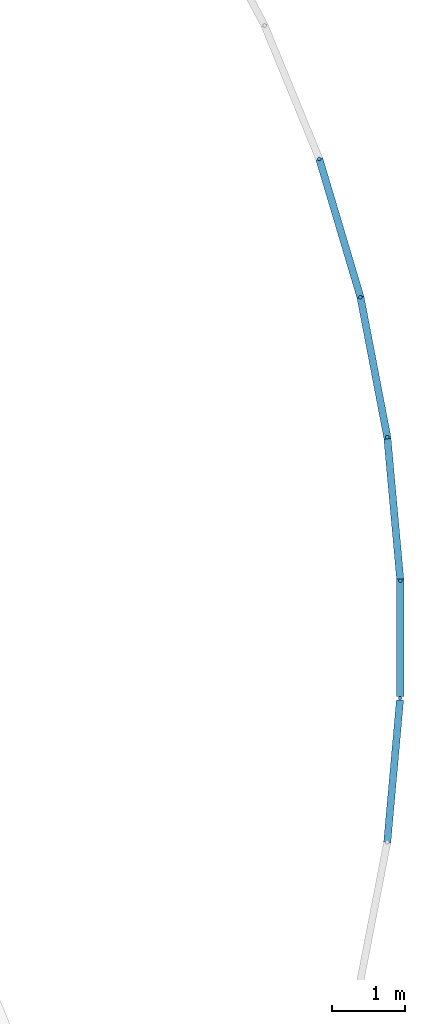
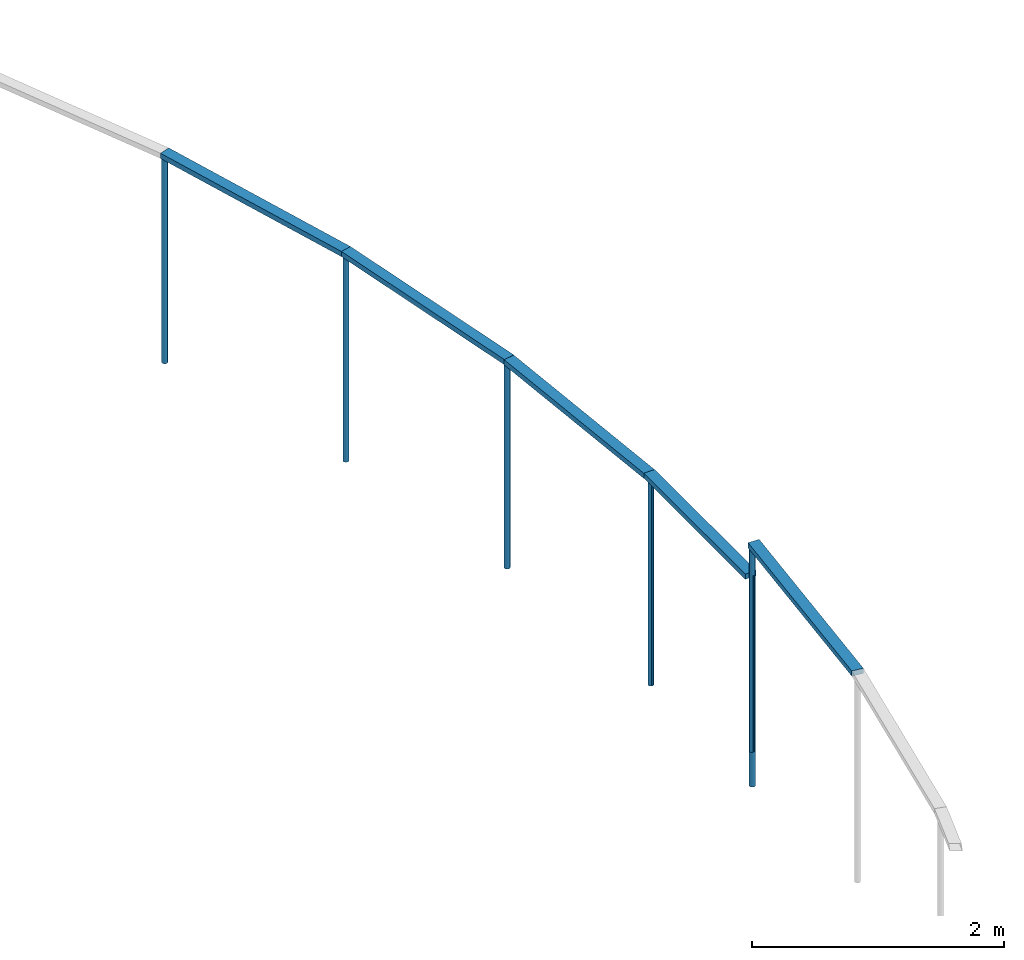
# One storey, part 16 of 33: 12 members, 4 elements without a shape of their own.
"""IFC2X3 building model written with IfcOpenShell, lengths in metres."""

from ifc_helpers import new_model, entity, si_unit, converted_unit, derived_unit, direction, frame, frame_2d, origin, origin_2d_with_axis, place, context, subcontext, project, spatial, rectangle, circle, extrude, clip, halfspace, source, transform, mapped, material, type_object, type_shapes, element, aggregate, save


model = new_model("IFC2X3")

# Units and contexts
model_context = context("Model", 3, precision=1e-05, world=origin(), true_north=direction((6.123031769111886e-17, 1.0)))
body_context = subcontext(model_context, "Body", "Model", "MODEL_VIEW")
ifc_project = project(units=[si_unit("LENGTHUNIT", "METRE"), si_unit("AREAUNIT", "SQUARE_METRE"), si_unit("VOLUMEUNIT", "CUBIC_METRE"), converted_unit("PLANEANGLEUNIT", "DEGREE", entity("IfcRatioMeasure", 0.017453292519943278), si_unit("PLANEANGLEUNIT", "RADIAN"), dimensions=[0, 0, 0, 0, 0, 0, 0]), si_unit("MASSUNIT", "GRAM", prefix="KILO"), derived_unit("MASSDENSITYUNIT", [(si_unit("MASSUNIT", "GRAM", prefix="KILO"), 1), (si_unit("LENGTHUNIT", "METRE"), -3)]), derived_unit("IONCONCENTRATIONUNIT", [(si_unit("MASSUNIT", "GRAM", prefix="KILO"), 1), (si_unit("LENGTHUNIT", "METRE"), -3)]), derived_unit("MOMENTOFINERTIAUNIT", [(si_unit("LENGTHUNIT", "METRE"), 4)]), si_unit("TIMEUNIT", "SECOND"), si_unit("FREQUENCYUNIT", "HERTZ"), si_unit("THERMODYNAMICTEMPERATUREUNIT", "DEGREE_CELSIUS"), derived_unit("THERMALTRANSMITTANCEUNIT", [(si_unit("MASSUNIT", "GRAM", prefix="KILO"), 1), (si_unit("THERMODYNAMICTEMPERATUREUNIT", "KELVIN"), -1), (si_unit("TIMEUNIT", "SECOND"), -3)]), derived_unit("THERMALCONDUCTANCEUNIT", [(si_unit("MASSUNIT", "GRAM", prefix="KILO"), 1), (si_unit("THERMODYNAMICTEMPERATUREUNIT", "KELVIN"), -1), (si_unit("TIMEUNIT", "SECOND"), -3), (si_unit("LENGTHUNIT", "METRE"), 1)]), derived_unit("VOLUMETRICFLOWRATEUNIT", [(si_unit("LENGTHUNIT", "METRE"), 3), (si_unit("TIMEUNIT", "SECOND"), -1)]), derived_unit("MASSFLOWRATEUNIT", [(si_unit("MASSUNIT", "GRAM", prefix="KILO"), 1), (si_unit("TIMEUNIT", "SECOND"), -1)]), derived_unit("ROTATIONALFREQUENCYUNIT", [(si_unit("TIMEUNIT", "SECOND"), -1)]), si_unit("ELECTRICCURRENTUNIT", "AMPERE"), si_unit("ELECTRICVOLTAGEUNIT", "VOLT"), si_unit("POWERUNIT", "WATT"), si_unit("FORCEUNIT", "NEWTON", prefix="KILO"), si_unit("ILLUMINANCEUNIT", "LUX"), si_unit("LUMINOUSFLUXUNIT", "LUMEN"), si_unit("LUMINOUSINTENSITYUNIT", "CANDELA"), derived_unit("USERDEFINED", [(si_unit("MASSUNIT", "GRAM", prefix="KILO"), -1), (si_unit("LENGTHUNIT", "METRE"), -2), (si_unit("TIMEUNIT", "SECOND"), 3), (si_unit("LUMINOUSFLUXUNIT", "LUMEN"), 1)]), derived_unit("USERDEFINED", [(si_unit("MASSUNIT", "GRAM", prefix="KILO"), 1), (si_unit("TIMEUNIT", "SECOND"), -3), (si_unit("LENGTHUNIT", "METRE"), 3), (si_unit("ELECTRICCURRENTUNIT", "AMPERE"), -2)]), derived_unit("SOUNDPOWERUNIT", [(si_unit("MASSUNIT", "GRAM", prefix="KILO"), 1), (si_unit("TIMEUNIT", "SECOND"), -3), (si_unit("LENGTHUNIT", "METRE"), 2)]), derived_unit("SOUNDPRESSUREUNIT", [(si_unit("MASSUNIT", "GRAM", prefix="KILO"), 1), (si_unit("LENGTHUNIT", "METRE"), -1), (si_unit("TIMEUNIT", "SECOND"), -2)]), derived_unit("LINEARVELOCITYUNIT", [(si_unit("LENGTHUNIT", "METRE"), 1), (si_unit("TIMEUNIT", "SECOND"), -1)]), si_unit("PRESSUREUNIT", "PASCAL"), derived_unit("USERDEFINED", [(si_unit("MASSUNIT", "GRAM", prefix="KILO"), 1), (si_unit("LENGTHUNIT", "METRE"), -2), (si_unit("TIMEUNIT", "SECOND"), -2)]), derived_unit("LINEARFORCEUNIT", [(si_unit("MASSUNIT", "GRAM", prefix="KILO"), 1), (si_unit("TIMEUNIT", "SECOND"), -2)]), derived_unit("PLANARFORCEUNIT", [(si_unit("MASSUNIT", "GRAM", prefix="KILO"), 1), (si_unit("LENGTHUNIT", "METRE"), -1), (si_unit("TIMEUNIT", "SECOND"), -2)]), derived_unit("SPECIFICHEATCAPACITYUNIT", [(si_unit("THERMODYNAMICTEMPERATUREUNIT", "KELVIN"), -1), (si_unit("LENGTHUNIT", "METRE"), 2), (si_unit("TIMEUNIT", "SECOND"), -2)]), derived_unit("HEATINGVALUEUNIT", [(si_unit("LENGTHUNIT", "METRE"), 2), (si_unit("TIMEUNIT", "SECOND"), -2)]), derived_unit("VAPORPERMEABILITYUNIT", [(si_unit("LENGTHUNIT", "METRE"), -1), (si_unit("TIMEUNIT", "SECOND"), 1)]), derived_unit("DYNAMICVISCOSITYUNIT", [(si_unit("MASSUNIT", "GRAM", prefix="KILO"), 1), (si_unit("TIMEUNIT", "SECOND"), -1), (si_unit("LENGTHUNIT", "METRE"), -1)]), derived_unit("THERMALEXPANSIONCOEFFICIENTUNIT", [(si_unit("THERMODYNAMICTEMPERATUREUNIT", "KELVIN"), -1)]), derived_unit("MODULUSOFELASTICITYUNIT", [(si_unit("MASSUNIT", "GRAM", prefix="KILO"), 1), (si_unit("LENGTHUNIT", "METRE"), -1), (si_unit("TIMEUNIT", "SECOND"), -2)]), derived_unit("ISOTHERMALMOISTURECAPACITYUNIT", [(si_unit("LENGTHUNIT", "METRE"), 3), (si_unit("MASSUNIT", "GRAM", prefix="KILO"), -1)]), derived_unit("MOISTUREDIFFUSIVITYUNIT", [(si_unit("TIMEUNIT", "SECOND"), -1), (si_unit("LENGTHUNIT", "METRE"), 2)])], contexts=[model_context])

# Site, building, storey
site_placement = place(None, origin())
site = spatial("IfcSite", under=ifc_project, at=site_placement, Name="Superficie", CompositionType="ELEMENT")
building_placement = place(site_placement, frame((0.0, 0.0, 235.0), z_axis=(0.0, 0.0, 1.0), x_axis=(-0.7996477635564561, 0.6004693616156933, 0.0)))
building = spatial("IfcBuilding", under=site, at=building_placement, CompositionType="ELEMENT")
storey_placement = place(building_placement, origin())
storey = spatial("IfcBuildingStorey", under=building, at=storey_placement, Name="P0- Escola", CompositionType="ELEMENT", Elevation=0.0)

# Curtain wall, members
curtain_wall_type = type_object("IfcCurtainWallType", Name="Muro cortina:SER EXT- Tanca exterior", PredefinedType="NOTDEFINED")
curtain_wall_1_placement = place(storey_placement, origin())
curtain_wall_1 = element("IfcCurtainWall", 1, at=curtain_wall_1_placement, inside=storey, type_object=curtain_wall_type, Name="Muro cortina:SER EXT- Tanca exterior", ObjectType="Muro cortina:SER EXT- Tanca exterior")
ifc_material_1 = material(Name="Acero inoxidable")
member_type_1 = type_object("IfcMemberType", Name="Montante circular:Perfil Tanca exterior", PredefinedType="MULLION", material=ifc_material_1)
shared_shape_1 = source(origin(), body_context, "Body", "SweptSolid", [
    extrude(circle(Radius=0.025, at=frame_2d((-2.1149748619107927e-18, -4.0388614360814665e-17), x_axis=(1.0, 0.0))), frame((0.0, 0.0, -2.0), z_axis=(0.0, 0.0, 1.0), x_axis=(-1.0, 0.0, 0.0)), (0.0, 0.0, 1.0), 1.9999999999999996),
])
type_shapes(member_type_1, [shared_shape_1])
member_1_placement = place(curtain_wall_1_placement, frame((-4.811432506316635, -62.216821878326, -5.509999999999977), z_axis=(0.0, 0.0, -1.0), x_axis=(-0.7729424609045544, 0.634476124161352, 0.0)))
member_1 = element("IfcMember", 2, at=member_1_placement, type_object=member_type_1, material=ifc_material_1, Name="Montante circular:Perfil Tanca exterior", ObjectType="Montante circular:Perfil Tanca exterior", context=body_context, shape_type="MappedRepresentation", body=[
    mapped(shared_shape_1, transform((0.0, 0.0, 0.0), scale=1.0)),
])
member_2_placement = place(curtain_wall_1_placement, frame((-3.2187866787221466, -63.396021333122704, -5.509999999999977), z_axis=(0.0, 0.0, -1.0), x_axis=(-0.8324228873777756, 0.5541408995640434, 0.0)))
member_2 = element("IfcMember", 3, at=member_2_placement, type_object=member_type_1, material=ifc_material_1, Name="Montante circular:Perfil Tanca exterior", ObjectType="Montante circular:Perfil Tanca exterior", context=body_context, shape_type="MappedRepresentation", body=[
    mapped(shared_shape_1, transform((0.0, 0.0, 0.0), scale=1.0)),
])

curtain_wall_2_placement = place(storey_placement, origin())
curtain_wall_2 = element("IfcCurtainWall", 4, at=curtain_wall_2_placement, inside=storey, type_object=curtain_wall_type, Name="Muro cortina:SER EXT- Tanca exterior", ObjectType="Muro cortina:SER EXT- Tanca exterior")
member_type_2 = type_object("IfcMemberType", Name="Montante circular:Perfil Tanca exterior", PredefinedType="MULLION", material=ifc_material_1)
shared_shape_2 = source(origin(), body_context, "Body", "SweptSolid", [
    extrude(circle(Radius=0.025, at=frame_2d((-1.304992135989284e-31, 4.038861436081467e-17), x_axis=(1.0, 0.0))), frame((-0.025, 0.0, -2.0)), (0.0, 0.0, 1.0), 1.9999999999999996),
])
type_shapes(member_type_2, [shared_shape_2])
member_3_placement = place(curtain_wall_2_placement, frame((-6.243108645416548, -60.91985133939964, -3.5099999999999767), z_axis=(0.0, 0.0, 1.0), x_axis=(0.6703833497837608, -0.7420149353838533, 0.0)))
member_3 = element("IfcMember", 5, at=member_3_placement, type_object=member_type_2, material=ifc_material_1, Name="Montante circular:Perfil Tanca exterior", ObjectType="Montante circular:Perfil Tanca exterior", context=body_context, shape_type="MappedRepresentation", body=[
    mapped(shared_shape_2, transform((0.0, 0.0, 0.0), scale=1.0)),
])
member_type_3 = type_object("IfcMemberType", Name="Montante circular:Perfil Tanca exterior", PredefinedType="MULLION", material=ifc_material_1)
shared_shape_3 = source(origin(), body_context, "Body", "SweptSolid", [
    extrude(circle(Radius=0.025, at=frame_2d((1.3661718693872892e-31, -4.46185640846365e-17), x_axis=(1.0, 0.0))), frame((-0.025, 0.0, -2.0), z_axis=(0.0, 0.0, 1.0), x_axis=(-1.0, 0.0, 0.0)), (0.0, 0.0, 1.0), 1.9999999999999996),
])
type_shapes(member_type_3, [shared_shape_3])
member_4_placement = place(curtain_wall_2_placement, frame((-7.605026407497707, -59.412410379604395, -5.509999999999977), z_axis=(0.0, 0.0, -1.0), x_axis=(-0.6703833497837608, 0.7420149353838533, 0.0)))
member_4 = element("IfcMember", 6, at=member_4_placement, type_object=member_type_3, material=ifc_material_1, Name="Montante circular:Perfil Tanca exterior", ObjectType="Montante circular:Perfil Tanca exterior", context=body_context, shape_type="MappedRepresentation", body=[
    mapped(shared_shape_3, transform((0.0, 0.0, 0.0), scale=1.0)),
])

# Curtain wall, member
curtain_wall_3_placement = place(storey_placement, origin())
curtain_wall_3 = element("IfcCurtainWall", 7, at=curtain_wall_3_placement, inside=storey, type_object=curtain_wall_type, Name="Muro cortina:SER EXT- Tanca exterior", ObjectType="Muro cortina:SER EXT- Tanca exterior")
member_5_placement = place(curtain_wall_3_placement, frame((-8.542051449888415, -58.16027627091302, -5.17499999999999), z_axis=(0.0, 0.0, -1.0), x_axis=(0.5266774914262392, -0.8500651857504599, 0.0)))
member_5 = element("IfcMember", 8, at=member_5_placement, type_object=member_type_3, material=ifc_material_1, Name="Montante circular:Perfil Tanca exterior", ObjectType="Montante circular:Perfil Tanca exterior", context=body_context, shape_type="MappedRepresentation", body=[
    mapped(shared_shape_3, transform((0.0, 0.0, 0.0), scale=1.0)),
])

curtain_wall_4_placement = place(storey_placement, origin())
curtain_wall_4 = element("IfcCurtainWall", 9, at=curtain_wall_4_placement, inside=storey, type_object=curtain_wall_type, Name="Muro cortina:SER EXT- Tanca exterior", ObjectType="Muro cortina:SER EXT- Tanca exterior")
member_6_placement = place(curtain_wall_4_placement, frame((-7.573440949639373, -59.45109402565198, -5.509999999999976), z_axis=(0.0, 0.0, -1.0), x_axis=(0.5992529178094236, -0.8005597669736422, 0.0)))
member_6 = element("IfcMember", 10, at=member_6_placement, type_object=member_type_3, material=ifc_material_1, Name="Montante circular:Perfil Tanca exterior", ObjectType="Montante circular:Perfil Tanca exterior", context=body_context, shape_type="MappedRepresentation", body=[
    mapped(shared_shape_3, transform((0.0, 0.0, 0.0), scale=1.0)),
])

# Member
ifc_material_2 = material(Name="_Formigó- Solera- T1- STR")
member_type_4 = type_object("IfcMemberType", Name="Montante rectangular:Montante rectangular 100x50", PredefinedType="MULLION", material=ifc_material_2)
shared_shape_4 = source(origin(), body_context, "Body", "SweptSolid", [
    clip(clip(extrude(rectangle(XDim=0.1, YDim=0.05000000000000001, at=origin_2d_with_axis()), frame((-0.025000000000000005, 0.0, -1.9840501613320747), z_axis=(0.0, 0.0, 1.0), x_axis=(0.0, -1.0, 0.0)), (0.0, 0.0, 1.0), 1.9365496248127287), halfspace(frame((91.39, 91.31733331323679, 2.7035033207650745), z_axis=(0.0, 0.05123709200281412, -0.9986865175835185), x_axis=(-1.0, 0.0, 0.0)), False)), halfspace(frame((-93.49000000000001, 91.31733331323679, -4.735054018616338), z_axis=(0.0, 0.0512370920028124, 0.9986865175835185), x_axis=(1.0, 0.0, 0.0)), False)),
])
type_shapes(member_type_4, [shared_shape_4])
member_7_placement = place(curtain_wall_2_placement, frame((-7.605026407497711, -59.412410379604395, -3.459999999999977), z_axis=(-0.6703833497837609, 0.7420149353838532, 0.0), x_axis=(0.0, 0.0, 1.0)))
member_7 = element("IfcMember", 11, at=member_7_placement, type_object=member_type_4, material=ifc_material_2, Name="Montante rectangular:Montante rectangular 100x50", ObjectType="Montante rectangular:Montante rectangular 100x50", context=body_context, shape_type="MappedRepresentation", body=[
    mapped(shared_shape_4, transform((0.0, 0.0, 0.0), scale=1.0)),
])

aggregate(curtain_wall_2, [member_3, member_4, member_7])

member_type_5 = type_object("IfcMemberType", Name="Montante rectangular:Montante rectangular 100x50", PredefinedType="MULLION", material=ifc_material_2)
shared_shape_5 = source(origin(), body_context, "Body", "SweptSolid", [
    clip(extrude(rectangle(XDim=0.1, YDim=0.05000000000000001, at=origin_2d_with_axis()), frame((-0.025000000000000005, 0.0, -1.984176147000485), z_axis=(0.0, 0.0, 1.0), x_axis=(0.0, -1.0, 0.0)), (0.0, 0.0, 1.0), 1.984176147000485), halfspace(frame((-0.3048, 0.0, -1.9816740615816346), z_axis=(0.0, 0.04997916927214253, -0.998750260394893), x_axis=(0.0, 0.998750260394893, 0.04997916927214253)), False)),
])
type_shapes(member_type_5, [shared_shape_5])
member_8_placement = place(curtain_wall_1_placement, frame((-6.278398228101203, -60.88451423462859, -3.459999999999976), z_axis=(-0.7402658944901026, 0.6723142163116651, 0.0), x_axis=(0.0, 0.0, 1.0)))
member_8 = element("IfcMember", 12, at=member_8_placement, type_object=member_type_5, material=ifc_material_2, Name="Montante rectangular:Montante rectangular 100x50", ObjectType="Montante rectangular:Montante rectangular 100x50", context=body_context, shape_type="MappedRepresentation", body=[
    mapped(shared_shape_5, transform((0.0, 0.0, 0.0), scale=1.0)),
])

member_type_6 = type_object("IfcMemberType", Name="Montante rectangular:Montante rectangular 100x50", PredefinedType="MULLION", material=ifc_material_2)
shared_shape_6 = source(origin(), body_context, "Body", "SweptSolid", [
    clip(clip(extrude(rectangle(XDim=0.1, YDim=0.05000000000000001, at=origin_2d_with_axis()), frame((-0.025000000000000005, 0.0, -1.984176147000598), z_axis=(0.0, 0.0, 1.0), x_axis=(0.0, -1.0, 0.0)), (0.0, 0.0, 1.0), 1.9866782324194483), halfspace(frame((-0.3048, 0.0, -1.9816740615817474), z_axis=(0.0, 0.04997916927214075, -0.9987502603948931), x_axis=(0.0, 0.9987502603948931, 0.04997916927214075)), False)), halfspace(frame((-0.3048, 0.0, 0.0), z_axis=(0.0, 0.049979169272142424, 0.998750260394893), x_axis=(0.0, 0.998750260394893, -0.049979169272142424)), False)),
])
type_shapes(member_type_6, [shared_shape_6])
member_9_placement = place(curtain_wall_1_placement, frame((-4.811432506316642, -62.216821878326, -3.459999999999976), z_axis=(-0.8036870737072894, 0.5950521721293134, 0.0), x_axis=(0.0, 0.0, 1.0)))
member_9 = element("IfcMember", 13, at=member_9_placement, type_object=member_type_6, material=ifc_material_2, Name="Montante rectangular:Montante rectangular 100x50", ObjectType="Montante rectangular:Montante rectangular 100x50", context=body_context, shape_type="MappedRepresentation", body=[
    mapped(shared_shape_6, transform((0.0, 0.0, 0.0), scale=1.0)),
])

aggregate(curtain_wall_1, [member_1, member_2, member_8, member_9])

member_type_7 = type_object("IfcMemberType", Name="Montante circular:Perfil Tanca exterior", PredefinedType="MULLION", material=ifc_material_1)
shared_shape_7 = source(origin(), body_context, "Body", "SweptSolid", [
    extrude(circle(Radius=0.025, at=frame_2d((-1.304992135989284e-31, 4.038861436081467e-17), x_axis=(1.0, 0.0))), frame((-0.025, 0.0, -2.0500000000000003)), (0.0, 0.0, 1.0), 2.0500000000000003),
])
type_shapes(member_type_7, [shared_shape_7])
member_10_placement = place(curtain_wall_4_placement, frame((-8.570466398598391, -58.119138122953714, -3.459999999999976), z_axis=(0.0, 0.0, 1.0), x_axis=(-0.5992529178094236, 0.8005597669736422, 0.0)))
member_10 = element("IfcMember", 14, at=member_10_placement, type_object=member_type_7, material=ifc_material_1, Name="Montante circular:Perfil Tanca exterior", ObjectType="Montante circular:Perfil Tanca exterior", context=body_context, shape_type="MappedRepresentation", body=[
    mapped(shared_shape_7, transform((0.0, 0.0, 0.0), scale=1.0)),
])

member_type_8 = type_object("IfcMemberType", Name="Montante rectangular:Montante rectangular 100x50", PredefinedType="MULLION", material=ifc_material_2)
shared_shape_8 = source(origin(), body_context, "Body", "SweptSolid", [
    clip(clip(extrude(rectangle(XDim=0.1, YDim=0.05000000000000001, at=frame_2d((1.0755285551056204e-16, 0.0), x_axis=(1.0, 0.0))), frame((-0.025000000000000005, 0.0, -2.0155017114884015), z_axis=(0.0, 0.0, 1.0), x_axis=(0.0, -1.0, 0.0)), (0.0, 0.0, 1.0), 1.967991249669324), halfspace(frame((0.3048, 0.0, -2.0129416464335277), z_axis=(0.0, -0.05113431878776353, -0.9986917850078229), x_axis=(0.0, -0.9986917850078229, 0.05113431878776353)), False)), halfspace(frame((-93.49000000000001, 91.32342219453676, 4.616130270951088), z_axis=(0.0, -0.05102870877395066, 0.9986971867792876), x_axis=(1.0, 0.0, 0.0)), False)),
])
type_shapes(member_type_8, [shared_shape_8])
member_11_placement = place(curtain_wall_3_placement, frame((-8.542051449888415, -58.16027627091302, -3.1249999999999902), z_axis=(0.5266774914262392, -0.8500651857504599, 0.0), x_axis=(0.0, 0.0, 1.0)))
member_11 = element("IfcMember", 15, at=member_11_placement, type_object=member_type_8, material=ifc_material_2, Name="Montante rectangular:Montante rectangular 100x50", ObjectType="Montante rectangular:Montante rectangular 100x50", context=body_context, shape_type="MappedRepresentation", body=[
    mapped(shared_shape_8, transform((0.0, 0.0, 0.0), scale=1.0)),
])

aggregate(curtain_wall_3, [member_5, member_11])

member_type_9 = type_object("IfcMemberType", Name="Montante rectangular:Montante rectangular 100x50", PredefinedType="MULLION", material=ifc_material_2)
shared_shape_9 = source(origin(), body_context, "Body", "SweptSolid", [
    extrude(rectangle(XDim=0.1, YDim=0.05000000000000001, at=origin_2d_with_axis()), frame((-0.025000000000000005, 0.0, -1.61378071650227), z_axis=(0.0, 0.0, 1.0), x_axis=(0.0, -1.0, 0.0)), (0.0, 0.0, 1.0), 1.61378071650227),
])
type_shapes(member_type_9, [shared_shape_9])
member_12_placement = place(curtain_wall_4_placement, frame((-7.573440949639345, -59.451094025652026, -3.459999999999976), z_axis=(0.5992529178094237, -0.8005597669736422, 0.0), x_axis=(0.0, 0.0, 1.0)))
member_12 = element("IfcMember", 16, at=member_12_placement, type_object=member_type_9, material=ifc_material_2, Name="Montante rectangular:Montante rectangular 100x50", ObjectType="Montante rectangular:Montante rectangular 100x50", context=body_context, shape_type="MappedRepresentation", body=[
    mapped(shared_shape_9, transform((0.0, 0.0, 0.0), scale=1.0)),
])

aggregate(curtain_wall_4, [member_12, member_6, member_10])

save(model, "model.ifc")
